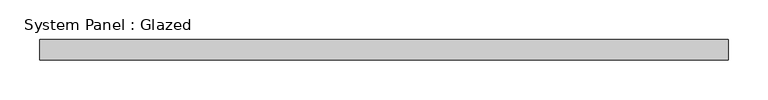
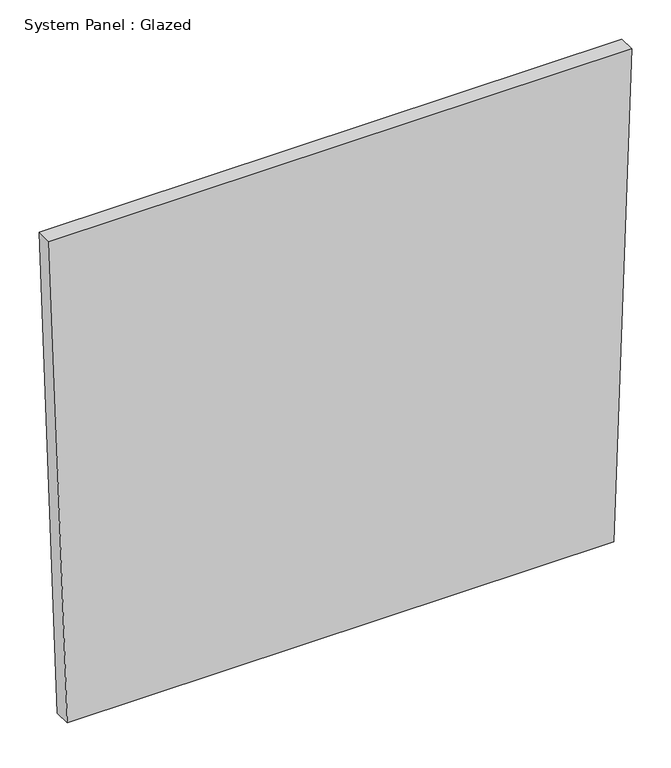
"""IFC4 building model written with IfcOpenShell, lengths in millimetres: plate geometry, System Panel : Glazed."""

from ifc_helpers import new_model, si_unit, frame, origin, place, context, project, spatial, polyline, outline, extrude, source, transform, mapped, element, save


def system_panel_glazed_e1847e86(model_context):
    return source(origin(), model_context, "Body", "SweptSolid", [
        extrude(outline(polyline([(0.0, -404.0016516), (0.0, 404.0016516), (761.5238602, 430.935095), (761.5238602, -430.935095), (0.0, -404.0016516)])), frame((0.0, -44.45, 0.0), z_axis=(0.0, 1.0, 0.0), x_axis=(0.0, 0.0, 1.0)), (0.0, 0.0, 1.0), 25.4),
    ])


if __name__ == "__main__":
    model = new_model("IFC4")
    model_context = context("Model", 3, world=origin())
    ifc_project = project(units=[si_unit("LENGTHUNIT", "METRE", prefix="MILLI")], contexts=[model_context])
    site = spatial("IfcSite", under=ifc_project)
    building = spatial("IfcBuilding", under=site)
    placement = place(None, origin())
    system_panel_glazed_shape = system_panel_glazed_e1847e86(model_context)
    element("IfcPlate", 1, ObjectType="System Panel : Glazed", at=placement, inside=building, context=model_context, shape_type="MappedRepresentation", body=[
        mapped(system_panel_glazed_shape, transform((0.0, 0.0, 0.0), x_axis=(1.0, 0.0, 0.0), y_axis=(0.0, 1.0, 0.0), z_axis=(0.0, 0.0, 1.0))),
    ])
    save(model, "model.ifc")
